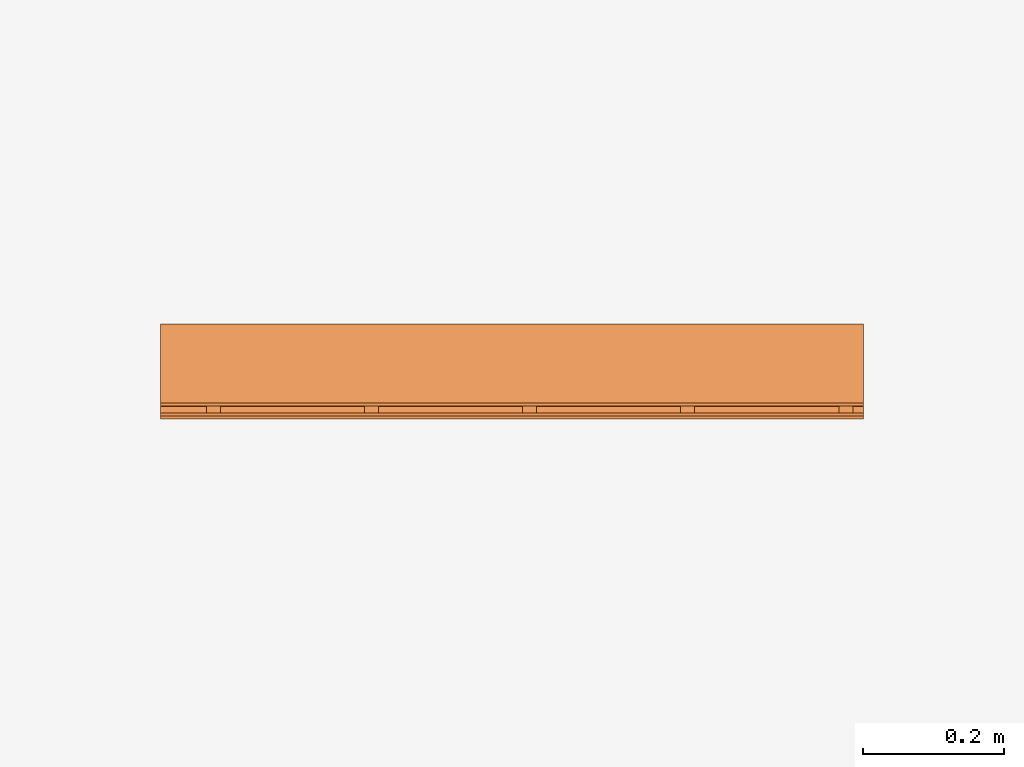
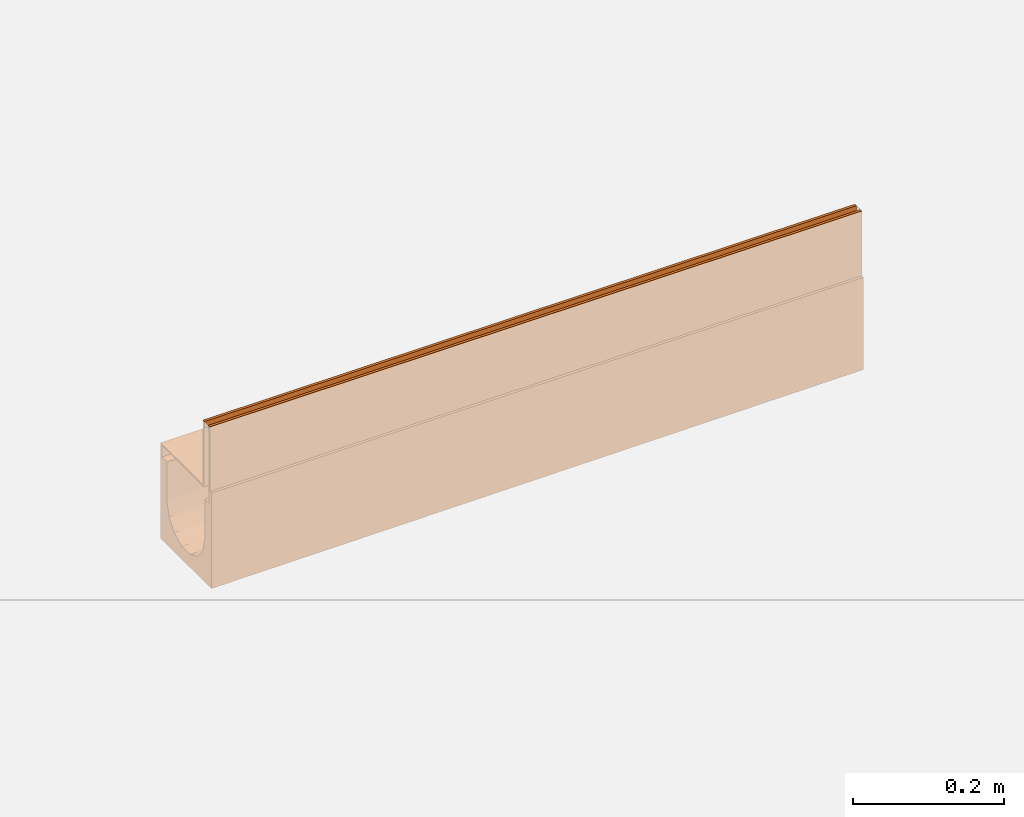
# One storey, part 2 of 2: 1 proxy.
"""IFC2X3 building model written with IfcOpenShell, lengths in millimetres."""

from ifc_helpers import new_model, entity, si_unit, converted_unit, direction, frame, origin, place, context, subcontext, project, spatial, faceted_brep, source, transform, mapped, material, material_list, element, save


model = new_model("IFC2X3")

# Units and contexts
model_context = context("Model", 3, precision=1e-06, world=origin(), true_north=direction((2.0, 6.12303176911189e-17, 1.0)))
context_of_model = context(None, 3, precision=1e-06, world=origin(), true_north=direction((2.0, 6.12303176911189e-17, 1.0)))
body_context = subcontext(model_context, "Body", "Model", "MODEL_VIEW")
ifc_project = project(units=[si_unit("LENGTHUNIT", "METRE", prefix="MILLI"), si_unit("AREAUNIT", "SQUARE_METRE", prefix="MILLI"), si_unit("VOLUMEUNIT", "CUBIC_METRE", prefix="MILLI"), converted_unit("PLANEANGLEUNIT", "DEGREE", entity("IfcRatioMeasure", 0.0174532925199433), si_unit("PLANEANGLEUNIT", "RADIAN"), dimensions=[0, 0, 0, 0, 0, 0, 0]), si_unit("TIMEUNIT", "SECOND")], contexts=[model_context, context_of_model])

# Site, building, storey
site_placement = place(None, origin())
site = spatial("IfcSite", under=ifc_project, at=site_placement, Name="Default", CompositionType="ELEMENT")
building_placement = place(site_placement, origin())
building = spatial("IfcBuilding", under=site, at=building_placement, CompositionType="ELEMENT")
storey_placement = place(building_placement, origin())
storey = spatial("IfcBuildingStorey", under=building, at=storey_placement, Name="Level 1", CompositionType="ELEMENT", Elevation=0.0)

# Proxy
ifc_material_1 = material(Name="Steel, Galvanized")
ifc_material_2 = material(Name="Vienite® Synthetic Resin Concrete")
ifc_material_list = material_list([ifc_material_1, ifc_material_2])
shared_shape = source(origin(), body_context, "Body", "Brep", [
    faceted_brep([(63.249999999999, 15.0, -107.0), (63.249999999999, 17.0, -109.0), (63.249999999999, 33.0, -109.0), (63.249999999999, 35.0, -107.0), (63.249999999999, 17.0, -123.499999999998), (63.249999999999, 15.0, -125.499999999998), (63.249999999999, 33.0, -123.499999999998), (63.249999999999, 35.0, -125.499999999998), (-61.250000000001, 15.0, -125.499999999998), (-61.250000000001, 17.0, -123.499999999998), (-61.250000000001, 33.0, -123.499999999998), (-61.250000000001, 35.0, -125.499999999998), (-61.250000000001, 17.0, -109.0), (-61.250000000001, 15.0, -107.0), (-61.250000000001, 33.0, -109.0), (-61.250000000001, 35.0, -107.0)], [[[0, 1, 2, 3]], [[4, 1, 0, 5]], [[3, 2, 6, 7]], [[6, 4, 5, 7]], [[8, 9, 10, 11]], [[12, 9, 8, 13]], [[11, 10, 14, 15]], [[14, 12, 13, 15]], [[5, 0, 13, 8]], [[7, 5, 8, 11]], [[3, 7, 11, 15]], [[0, 3, 15, 13]], [[1, 4, 9, 12]], [[14, 2, 1, 12]], [[6, 2, 14, 10]], [[9, 4, 6, 10]]]),
    faceted_brep([(-47.2500000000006, 0.0, -10.0), (-47.2500000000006, 0.0, -107.0), (-45.2500000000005, 0.0, -105.0), (-45.2500000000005, 0.0, 0.0), (-49.2500000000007, 0.0, 0.0), (-49.2500000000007, 0.0, -10.0), (63.2499999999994, 0.0, -107.0), (63.2499999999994, 0.0, -105.0), (-45.2500000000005, 1000.0, -105.0), (63.2499999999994, 1000.0, -105.0), (63.2499999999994, 1000.0, -107.0), (-47.2500000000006, 1000.0, -107.0), (-47.2500000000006, 1000.0, -10.0), (-45.2500000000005, 1000.0, 0.0), (-49.2500000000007, 1000.0, -10.0), (-49.2500000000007, 1000.0, 0.0)], [[[0, 1, 2, 3]], [[4, 5, 0, 3]], [[6, 7, 2, 1]], [[8, 9, 10, 11]], [[12, 13, 8, 11]], [[12, 14, 15, 13]], [[0, 5, 14, 12]], [[11, 1, 0, 12]], [[6, 1, 11, 10]], [[9, 7, 6, 10]], [[8, 2, 7, 9]], [[3, 2, 8, 13]], [[15, 4, 3, 13]], [[5, 4, 15, 14]]]),
    faceted_brep([(-59.2500000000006, 1000.0, 0.0), (-59.2500000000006, 1000.0, -10.0), (-61.2500000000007, 1000.0, -10.0), (-63.2500000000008, 1000.0, 0.0), (-63.2500000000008, 1000.0, -125.499999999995), (-61.2500000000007, 1000.0, -125.499999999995), (-61.2500000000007, 0.0, -10.0), (-63.2500000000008, 0.0, 0.0), (-63.2500000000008, 0.0, -125.499999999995), (-61.2500000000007, 0.0, -125.499999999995), (-59.2500000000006, 0.0, 0.0), (-59.2500000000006, 0.0, -10.0)], [[[0, 1, 2, 3]], [[4, 3, 2, 5]], [[6, 7, 8, 9]], [[10, 7, 6, 11]], [[9, 8, 4, 5]], [[6, 9, 5, 2]], [[11, 6, 2, 1]], [[10, 11, 1, 0]], [[3, 7, 10, 0]], [[4, 8, 7, 3]]]),
    faceted_brep([(63.2499999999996, 465.0, -107.0), (63.2499999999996, 467.0, -109.0), (63.2499999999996, 483.0, -109.0), (63.2499999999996, 485.0, -107.0), (63.2499999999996, 467.0, -123.499999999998), (63.2499999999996, 465.0, -125.499999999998), (63.2499999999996, 483.0, -123.499999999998), (63.2499999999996, 485.0, -125.499999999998), (-61.2500000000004, 465.0, -125.499999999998), (-61.2500000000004, 467.0, -123.499999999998), (-61.2500000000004, 483.0, -123.499999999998), (-61.2500000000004, 485.0, -125.499999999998), (-61.2500000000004, 467.0, -109.0), (-61.2500000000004, 465.0, -107.0), (-61.2500000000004, 483.0, -109.0), (-61.2500000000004, 485.0, -107.0)], [[[0, 1, 2, 3]], [[4, 1, 0, 5]], [[3, 2, 6, 7]], [[6, 4, 5, 7]], [[8, 9, 10, 11]], [[12, 9, 8, 13]], [[11, 10, 14, 15]], [[14, 12, 13, 15]], [[5, 0, 13, 8]], [[7, 5, 8, 11]], [[3, 7, 11, 15]], [[0, 3, 15, 13]], [[1, 4, 9, 12]], [[2, 1, 12, 14]], [[6, 2, 14, 10]], [[4, 6, 10, 9]]]),
    faceted_brep([(63.2499999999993, 240.0, -107.0), (63.2499999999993, 242.0, -109.0), (63.2499999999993, 258.0, -109.0), (63.2499999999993, 260.0, -107.0), (63.2499999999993, 242.0, -123.499999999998), (63.2499999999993, 240.0, -125.499999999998), (63.2499999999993, 258.0, -123.499999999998), (63.2499999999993, 260.0, -125.499999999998), (-61.2500000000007, 240.0, -125.499999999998), (-61.2500000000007, 242.0, -123.499999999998), (-61.2500000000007, 258.0, -123.499999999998), (-61.2500000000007, 260.0, -125.499999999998), (-61.2500000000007, 242.0, -109.0), (-61.2500000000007, 240.0, -107.0), (-61.2500000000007, 258.0, -109.0), (-61.2500000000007, 260.0, -107.0)], [[[0, 1, 2, 3]], [[4, 1, 0, 5]], [[3, 2, 6, 7]], [[6, 4, 5, 7]], [[8, 9, 10, 11]], [[12, 9, 8, 13]], [[11, 10, 14, 15]], [[14, 12, 13, 15]], [[5, 0, 13, 8]], [[7, 5, 8, 11]], [[3, 7, 11, 15]], [[0, 3, 15, 13]], [[1, 4, 9, 12]], [[2, 1, 12, 14]], [[6, 2, 14, 10]], [[4, 6, 10, 9]]]),
    faceted_brep([(63.2500000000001, 915.0, -107.0), (63.2500000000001, 917.0, -109.0), (63.2500000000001, 933.0, -109.0), (63.2500000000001, 935.0, -107.0), (63.2500000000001, 917.0, -123.499999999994), (63.2500000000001, 915.0, -125.499999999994), (63.2500000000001, 933.0, -123.499999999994), (63.2500000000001, 935.0, -125.499999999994), (-61.2499999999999, 915.0, -125.499999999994), (-61.2499999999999, 917.0, -123.499999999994), (-61.2499999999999, 933.0, -123.499999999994), (-61.2499999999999, 935.0, -125.499999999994), (-61.2499999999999, 917.0, -109.0), (-61.2499999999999, 915.0, -107.0), (-61.2499999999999, 933.0, -109.0), (-61.2499999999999, 935.0, -107.0)], [[[0, 1, 2, 3]], [[4, 1, 0, 5]], [[3, 2, 6, 7]], [[6, 4, 5, 7]], [[8, 9, 10, 11]], [[12, 9, 8, 13]], [[11, 10, 14, 15]], [[14, 12, 13, 15]], [[5, 0, 13, 8]], [[11, 7, 5, 8]], [[3, 7, 11, 15]], [[13, 0, 3, 15]], [[1, 4, 9, 12]], [[2, 1, 12, 14]], [[6, 2, 14, 10]], [[4, 6, 10, 9]]]),
    faceted_brep([(63.2499999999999, 690.0, -107.0), (63.2499999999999, 692.0, -109.0), (63.2499999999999, 708.0, -109.0), (63.2499999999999, 710.0, -107.0), (63.2499999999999, 692.0, -123.499999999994), (63.2499999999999, 690.0, -125.499999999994), (63.2499999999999, 708.0, -123.499999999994), (63.2499999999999, 710.0, -125.499999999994), (-61.2500000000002, 690.0, -125.499999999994), (-61.2500000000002, 692.0, -123.499999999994), (-61.2500000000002, 708.0, -123.499999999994), (-61.2500000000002, 710.0, -125.499999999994), (-61.2500000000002, 692.0, -109.0), (-61.2500000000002, 690.0, -107.0), (-61.2500000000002, 708.0, -109.0), (-61.2500000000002, 710.0, -107.0)], [[[0, 1, 2, 3]], [[4, 1, 0, 5]], [[3, 2, 6, 7]], [[6, 4, 5, 7]], [[8, 9, 10, 11]], [[12, 9, 8, 13]], [[11, 10, 14, 15]], [[14, 12, 13, 15]], [[5, 0, 13, 8]], [[11, 7, 5, 8]], [[3, 7, 11, 15]], [[13, 0, 3, 15]], [[1, 4, 9, 12]], [[2, 1, 12, 14]], [[6, 2, 14, 10]], [[4, 6, 10, 9]]]),
    faceted_brep([(-67.4999999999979, 1000.0, -105.0), (-63.2499999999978, 1000.0, -105.0), (-63.2499999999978, 1000.0, -125.500000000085), (-67.4999999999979, 1000.0, -260.0), (-50.0, 1000.0, -125.500000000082), (-50.0, 1000.0, -190.0), (-47.5242216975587, 1000.0, -200.847093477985), (-45.0484433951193, 1000.0, -211.694186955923), (-31.1744900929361, 1000.0, -229.091574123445), (-21.1502683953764, 1000.0, -233.91898486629), (-11.1260466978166, 1000.0, -238.746395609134), (-38.1114667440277, 1000.0, -220.392880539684), (0.0, 1000.0, -238.746395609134), (11.126046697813, 1000.0, -238.746395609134), (50.0, 1000.0, -190.0), (50.0, 1000.0, -125.500000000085), (63.249999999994, 1000.0, -125.500000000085), (67.500000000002, 1000.0, -260.0), (63.249999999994, 1000.0, -105.0), (67.500000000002, 1000.0, -105.0), (21.1502683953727, 1000.0, -233.91898486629), (31.1744900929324, 1000.0, -229.091574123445), (45.0484433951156, 1000.0, -211.694186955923), (47.5242216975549, 1000.0, -200.847093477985), (38.111466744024, 1000.0, -220.392880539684), (-67.5000000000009, 0.0, -255.0), (-45.0484433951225, 0.0, -206.694186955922), (-46.5542373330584, 0.0, -200.096872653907), (-50.0, 0.0, -185.0), (-31.1744900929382, 0.0, -224.091574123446), (-38.1114667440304, 0.0, -215.392880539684), (-11.1260466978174, 0.0, -233.746395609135), (-21.1502683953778, 0.0, -228.91898486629), (11.1260466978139, 0.0, -233.746395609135), (0.0, 0.0, -233.746395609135), (67.4999999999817, 0.0, -255.0), (-63.2499999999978, 0.0, -125.500000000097), (-63.2499999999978, 0.0, -105.0), (-67.5000000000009, 0.0, -105.0), (-50.0, 0.0, -125.500000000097), (31.1744900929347, 0.0, -224.091574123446), (21.1502683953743, 0.0, -228.91898486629), (50.0, 0.0, -185.0), (46.5542371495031, 0.0, -200.096873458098), (63.2500000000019, 0.0, -125.500000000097), (45.0484433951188, 0.0, -206.694186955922), (38.1114667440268, 0.0, -215.392880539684), (50.0, 0.0, -125.500000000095), (67.4999999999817, 0.0, -105.0), (63.2500000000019, 0.0, -105.0), (-50.0, 250.000013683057, -186.250000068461), (-35.5430016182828, 477.55479373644, -222.554449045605), (-39.0915746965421, 301.904841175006, -217.684013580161), (-30.4065854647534, 315.866317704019, -226.271138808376), (39.0915767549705, 653.204744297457, -219.44051051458), (43.1307072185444, 488.864082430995, -212.737443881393), (44.2106003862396, 635.514288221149, -211.531860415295), (-39.0915747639, 653.204746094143, -219.440513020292), (-29.696093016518, 646.565597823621, -228.458964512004), (-47.3876306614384, 374.999991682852, -202.82531219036), (-48.89171460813, 518.387005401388, -198.060948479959), (-2.91588081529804e-06, 301.904832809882, -236.509524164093), (-10.9684170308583, 305.042894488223, -235.307320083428), (-5.5982252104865, 150.952413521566, -235.440372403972), (12.0741057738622, 315.866299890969, -235.099594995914), (5.33371147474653, 477.554791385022, -237.10247522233), (35.3553400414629, 150.952387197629, -221.110100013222), (-41.8233658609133, 146.584549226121, -213.133763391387), (42.1728888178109, 829.135588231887, -216.005451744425), (47.0016510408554, 843.632235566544, -206.272333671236), (-50.0, 749.999986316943, -188.749999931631), (-47.0016499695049, 843.632222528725, -206.27233655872), (-21.6941880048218, 209.065851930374, -231.093772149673), (-35.3553394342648, 150.952420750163, -221.110100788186), (-34.4525207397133, 816.145858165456, -225.316399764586), (-25.646806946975, 806.214865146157, -231.952412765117), (21.6941814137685, 500.0, -232.548446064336), (29.6960925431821, 646.565642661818, -228.458965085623), (16.1554098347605, 747.818208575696, -236.057192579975), (-3.27550310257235e-06, 653.204751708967, -238.266023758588), (-8.54111809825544, 477.617179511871, -236.653178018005), (21.6941852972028, 209.065841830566, -231.093773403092), (-46.4228776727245, 186.188946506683, -204.502870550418), (34.4525215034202, 816.145876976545, -225.316399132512), (49.2918467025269, 134.881431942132, -194.0597424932), (47.3876313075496, 374.999975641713, -202.825310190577), (46.4228780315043, 186.188933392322, -204.502869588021), (-50.0, 499.999972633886, -187.499999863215), (39.0915763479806, 301.904795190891, -217.684011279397), (41.8233665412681, 146.584526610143, -213.133762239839), (25.6468067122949, 806.214870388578, -231.952412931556), (-5.38536224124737, 826.602379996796, -238.842144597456), (-16.1554121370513, 747.81816965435, -236.057191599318), (35.5430053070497, 477.554758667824, -222.554445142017), (-42.1728873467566, 829.135597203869, -216.005454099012), (5.59822218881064, 150.952412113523, -235.440372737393), (30.4065855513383, 315.866251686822, -226.271138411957), (-43.1307054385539, 488.864104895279, -212.737447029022), (-44.2105988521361, 635.514296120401, -211.531863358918), (-49.2918465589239, 134.881438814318, -194.059743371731), (-47.7236140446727, 671.453379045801, -203.272248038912), (48.8917149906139, 518.386993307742, -198.060946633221), (50.0, 250.000027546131, -186.250000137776), (50.0, 499.999944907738, -187.499999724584), (50.0, 749.999972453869, -188.749999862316), (47.7236147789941, 671.453375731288, -203.272245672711), (-22.9273943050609, 354.532924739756, -231.206149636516), (-21.6941890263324, 500.0, -232.548442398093), (5.80423086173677, 807.818012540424, -238.701056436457), (22.9273914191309, 354.532889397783, -231.206150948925)], [[[0, 1, 2, 3]], [[2, 4, 5, 3]], [[3, 5, 6, 7]], [[3, 8, 9, 10]], [[3, 7, 11, 8]], [[3, 10, 12, 13]], [[14, 15, 16, 17]], [[16, 18, 19, 17]], [[17, 13, 20, 21]], [[17, 22, 23, 14]], [[17, 21, 24, 22]], [[13, 17, 3]], [[25, 26, 27, 28]], [[25, 29, 30, 26]], [[25, 31, 32, 29]], [[33, 34, 25, 35]], [[36, 37, 38, 25]], [[28, 39, 36, 25]], [[35, 40, 41, 33]], [[42, 43, 35, 44]], [[35, 45, 46, 40]], [[47, 42, 44]], [[48, 49, 44, 35]], [[1, 37, 36, 2]], [[0, 38, 37, 1]], [[0, 3, 25, 38]], [[3, 17, 35, 25]], [[19, 48, 35, 17]], [[18, 49, 48, 19]], [[16, 44, 49, 18]], [[16, 15, 47, 44]], [[4, 39, 28, 50]], [[2, 36, 39, 4]], [[51, 52, 53]], [[54, 55, 56]], [[57, 51, 58]], [[59, 60, 50]], [[61, 62, 63]], [[61, 64, 65]], [[40, 46, 66]], [[30, 67, 26]], [[68, 69, 22]], [[70, 71, 6]], [[29, 72, 73]], [[74, 75, 8]], [[76, 77, 78]], [[65, 79, 80]], [[66, 81, 40]], [[27, 26, 82]], [[24, 83, 68]], [[84, 85, 86]], [[87, 50, 60, 70]], [[88, 66, 89]], [[58, 75, 74]], [[83, 90, 77]], [[91, 10, 92]], [[76, 93, 77]], [[54, 93, 55]], [[94, 57, 74]], [[30, 73, 67]], [[63, 72, 31]], [[61, 63, 95]], [[72, 53, 73]], [[46, 89, 66]], [[93, 76, 96]], [[97, 98, 60]], [[27, 82, 99]], [[52, 51, 97]], [[98, 94, 71]], [[98, 71, 100]], [[101, 102, 103, 104]], [[102, 101, 85]], [[84, 86, 43]], [[104, 69, 105]], [[69, 68, 56]], [[28, 27, 99]], [[52, 59, 82]], [[99, 59, 50]], [[72, 29, 32, 31]], [[29, 73, 30]], [[67, 52, 82]], [[95, 34, 33]], [[73, 53, 52]], [[72, 106, 53]], [[107, 58, 51]], [[107, 51, 53]], [[97, 51, 57]], [[58, 107, 92]], [[74, 57, 58]], [[80, 92, 107]], [[79, 108, 91]], [[98, 97, 57]], [[52, 97, 59]], [[52, 67, 73]], [[26, 67, 82]], [[92, 10, 9]], [[74, 11, 94]], [[92, 9, 75]], [[94, 7, 71]], [[75, 58, 92]], [[59, 99, 82]], [[28, 99, 50]], [[11, 74, 8]], [[11, 7, 94]], [[8, 75, 9]], [[70, 6, 5]], [[71, 70, 100]], [[71, 7, 6]], [[43, 86, 45]], [[42, 102, 84]], [[88, 86, 85]], [[42, 84, 43]], [[85, 84, 102]], [[81, 66, 96]], [[86, 89, 45]], [[81, 33, 41, 40]], [[96, 66, 88]], [[95, 64, 61]], [[93, 96, 88]], [[109, 81, 96]], [[55, 88, 85]], [[93, 54, 77]], [[54, 83, 77]], [[90, 78, 77]], [[12, 91, 108]], [[65, 78, 79]], [[88, 55, 93]], [[55, 85, 101]], [[45, 89, 46]], [[88, 89, 86]], [[68, 83, 54]], [[20, 90, 21]], [[68, 54, 56]], [[24, 21, 83]], [[78, 20, 13]], [[68, 22, 24]], [[21, 90, 83]], [[20, 78, 90]], [[101, 104, 105]], [[104, 23, 69]], [[23, 104, 14]], [[91, 92, 79]], [[23, 22, 69]], [[63, 31, 34]], [[33, 81, 95]], [[64, 95, 81]], [[109, 64, 81]], [[76, 78, 65]], [[76, 65, 64]], [[79, 92, 80]], [[107, 106, 62]], [[61, 65, 80]], [[95, 63, 34]], [[61, 80, 62]], [[107, 62, 80]], [[72, 63, 62]], [[97, 60, 59]], [[70, 60, 100]], [[101, 105, 56]], [[62, 106, 72]], [[107, 53, 106]], [[94, 98, 57]], [[60, 98, 100]], [[96, 76, 109]], [[64, 109, 76]], [[101, 56, 55]], [[56, 105, 69]], [[108, 79, 78]], [[10, 91, 12]], [[78, 13, 108]], [[12, 108, 13]], [[15, 14, 104, 103]], [[47, 15, 42]], [[25, 34, 31]], [[35, 43, 45]], [[4, 50, 87, 70]], [[4, 70, 5]], [[15, 103, 102, 42]]]),
])
proxy_placement = place(storey_placement, frame((143.656586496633, 99.9218925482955, 0.0), z_axis=(0.0, 0.0, 1.0), x_axis=(0.0, 1.0, 0.0)))
element("IfcBuildingElementProxy", 1, at=proxy_placement, inside=storey, material=ifc_material_list, Name="Civil-Drainage-Channel-ACO-MultiDrain-M100D-Brickslot-Channel-System:23001 - No 1 Sloping Channel - 1000mm LG - Invert Depth 130/135mm:23001 - No 1 Sloping Channel - 1000mm LG - Invert Depth 130/135mm", ObjectType="23001 - No 1 Sloping Channel - 1000mm LG - Invert Depth 130/135mm", CompositionType="ELEMENT", context=body_context, shape_type="MappedRepresentation", body=[
    mapped(shared_shape, transform((0.0, 0.0, 0.0), scale=1.0)),
])

save(model, "model.ifc")
